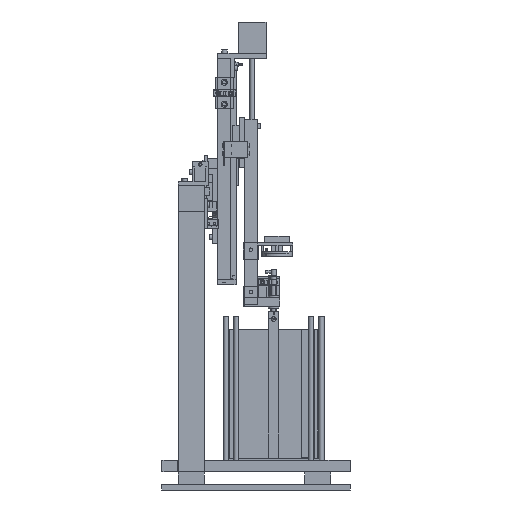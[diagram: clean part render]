
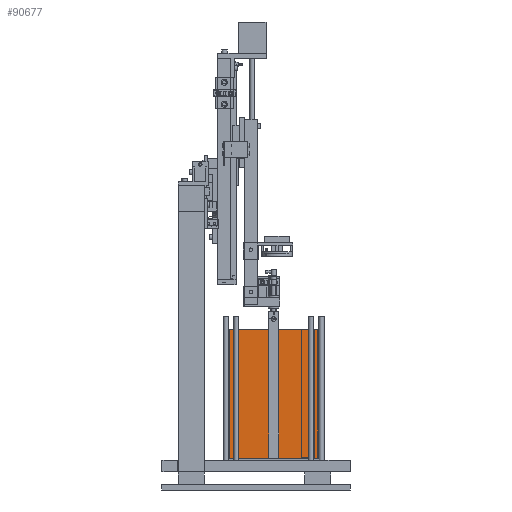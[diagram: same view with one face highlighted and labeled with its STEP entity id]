
A CAD part, left-side view. The second image highlights one B-rep face of the part: STEP entity #90677.
In plain terms, the highlighted planar face has unit normal (-1, 0, 0).
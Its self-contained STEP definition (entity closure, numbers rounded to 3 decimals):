
#90677 = ADVANCED_FACE('',(#90678),#90692,.F.);
#90678 = FACE_BOUND('',#90679,.F.);
#90679 = EDGE_LOOP('',(#90680,#90715,#90743,#90771));
#90680 = ORIENTED_EDGE('',*,*,#90681,.F.);
#90681 = EDGE_CURVE('',#90682,#90684,#90686,.T.);
#90682 = VERTEX_POINT('',#90683);
#90683 = CARTESIAN_POINT('',(1.85,-67.75,0.));
#90684 = VERTEX_POINT('',#90685);
#90685 = CARTESIAN_POINT('',(1.85,-67.75,198.));
#90686 = SURFACE_CURVE('',#90687,(#90691,#90703),.PCURVE_S1.);
#90687 = LINE('',#90688,#90689);
#90688 = CARTESIAN_POINT('',(1.85,-67.75,0.));
#90689 = VECTOR('',#90690,1.);
#90690 = DIRECTION('',(0.,0.,1.));
#90691 = PCURVE('',#90692,#90697);
#90692 = PLANE('',#90693);
#90693 = AXIS2_PLACEMENT_3D('',#90694,#90695,#90696);
#90694 = CARTESIAN_POINT('',(1.85,-67.75,0.));
#90695 = DIRECTION('',(1.,0.,0.));
#90696 = DIRECTION('',(0.,0.,1.));
#90697 = DEFINITIONAL_REPRESENTATION('',(#90698),#90702);
#90698 = LINE('',#90699,#90700);
#90699 = CARTESIAN_POINT('',(0.,0.));
#90700 = VECTOR('',#90701,1.);
#90701 = DIRECTION('',(1.,0.));
#90702 = ( GEOMETRIC_REPRESENTATION_CONTEXT(2) 
PARAMETRIC_REPRESENTATION_CONTEXT() REPRESENTATION_CONTEXT('2D SPACE',''
  ) );
#90703 = PCURVE('',#90704,#90709);
#90704 = PLANE('',#90705);
#90705 = AXIS2_PLACEMENT_3D('',#90706,#90707,#90708);
#90706 = CARTESIAN_POINT('',(1.85,-67.75,0.));
#90707 = DIRECTION('',(0.,1.,0.));
#90708 = DIRECTION('',(0.,0.,1.));
#90709 = DEFINITIONAL_REPRESENTATION('',(#90710),#90714);
#90710 = LINE('',#90711,#90712);
#90711 = CARTESIAN_POINT('',(0.,0.));
#90712 = VECTOR('',#90713,1.);
#90713 = DIRECTION('',(1.,0.));
#90714 = ( GEOMETRIC_REPRESENTATION_CONTEXT(2) 
PARAMETRIC_REPRESENTATION_CONTEXT() REPRESENTATION_CONTEXT('2D SPACE',''
  ) );
#90715 = ORIENTED_EDGE('',*,*,#90716,.T.);
#90716 = EDGE_CURVE('',#90682,#90717,#90719,.T.);
#90717 = VERTEX_POINT('',#90718);
#90718 = CARTESIAN_POINT('',(1.85,67.75,0.));
#90719 = SURFACE_CURVE('',#90720,(#90724,#90731),.PCURVE_S1.);
#90720 = LINE('',#90721,#90722);
#90721 = CARTESIAN_POINT('',(1.85,-67.75,0.));
#90722 = VECTOR('',#90723,1.);
#90723 = DIRECTION('',(0.,1.,0.));
#90724 = PCURVE('',#90692,#90725);
#90725 = DEFINITIONAL_REPRESENTATION('',(#90726),#90730);
#90726 = LINE('',#90727,#90728);
#90727 = CARTESIAN_POINT('',(0.,0.));
#90728 = VECTOR('',#90729,1.);
#90729 = DIRECTION('',(0.,-1.));
#90730 = ( GEOMETRIC_REPRESENTATION_CONTEXT(2) 
PARAMETRIC_REPRESENTATION_CONTEXT() REPRESENTATION_CONTEXT('2D SPACE',''
  ) );
#90731 = PCURVE('',#90732,#90737);
#90732 = PLANE('',#90733);
#90733 = AXIS2_PLACEMENT_3D('',#90734,#90735,#90736);
#90734 = CARTESIAN_POINT('',(1.85,-67.75,0.));
#90735 = DIRECTION('',(0.,0.,1.));
#90736 = DIRECTION('',(1.,0.,0.));
#90737 = DEFINITIONAL_REPRESENTATION('',(#90738),#90742);
#90738 = LINE('',#90739,#90740);
#90739 = CARTESIAN_POINT('',(0.,0.));
#90740 = VECTOR('',#90741,1.);
#90741 = DIRECTION('',(0.,1.));
#90742 = ( GEOMETRIC_REPRESENTATION_CONTEXT(2) 
PARAMETRIC_REPRESENTATION_CONTEXT() REPRESENTATION_CONTEXT('2D SPACE',''
  ) );
#90743 = ORIENTED_EDGE('',*,*,#90744,.T.);
#90744 = EDGE_CURVE('',#90717,#90745,#90747,.T.);
#90745 = VERTEX_POINT('',#90746);
#90746 = CARTESIAN_POINT('',(1.85,67.75,198.));
#90747 = SURFACE_CURVE('',#90748,(#90752,#90759),.PCURVE_S1.);
#90748 = LINE('',#90749,#90750);
#90749 = CARTESIAN_POINT('',(1.85,67.75,0.));
#90750 = VECTOR('',#90751,1.);
#90751 = DIRECTION('',(0.,0.,1.));
#90752 = PCURVE('',#90692,#90753);
#90753 = DEFINITIONAL_REPRESENTATION('',(#90754),#90758);
#90754 = LINE('',#90755,#90756);
#90755 = CARTESIAN_POINT('',(0.,-135.5));
#90756 = VECTOR('',#90757,1.);
#90757 = DIRECTION('',(1.,0.));
#90758 = ( GEOMETRIC_REPRESENTATION_CONTEXT(2) 
PARAMETRIC_REPRESENTATION_CONTEXT() REPRESENTATION_CONTEXT('2D SPACE',''
  ) );
#90759 = PCURVE('',#90760,#90765);
#90760 = PLANE('',#90761);
#90761 = AXIS2_PLACEMENT_3D('',#90762,#90763,#90764);
#90762 = CARTESIAN_POINT('',(1.85,67.75,0.));
#90763 = DIRECTION('',(0.,1.,0.));
#90764 = DIRECTION('',(0.,0.,1.));
#90765 = DEFINITIONAL_REPRESENTATION('',(#90766),#90770);
#90766 = LINE('',#90767,#90768);
#90767 = CARTESIAN_POINT('',(0.,0.));
#90768 = VECTOR('',#90769,1.);
#90769 = DIRECTION('',(1.,0.));
#90770 = ( GEOMETRIC_REPRESENTATION_CONTEXT(2) 
PARAMETRIC_REPRESENTATION_CONTEXT() REPRESENTATION_CONTEXT('2D SPACE',''
  ) );
#90771 = ORIENTED_EDGE('',*,*,#90772,.F.);
#90772 = EDGE_CURVE('',#90684,#90745,#90773,.T.);
#90773 = SURFACE_CURVE('',#90774,(#90778,#90785),.PCURVE_S1.);
#90774 = LINE('',#90775,#90776);
#90775 = CARTESIAN_POINT('',(1.85,-67.75,198.));
#90776 = VECTOR('',#90777,1.);
#90777 = DIRECTION('',(0.,1.,0.));
#90778 = PCURVE('',#90692,#90779);
#90779 = DEFINITIONAL_REPRESENTATION('',(#90780),#90784);
#90780 = LINE('',#90781,#90782);
#90781 = CARTESIAN_POINT('',(198.,0.));
#90782 = VECTOR('',#90783,1.);
#90783 = DIRECTION('',(0.,-1.));
#90784 = ( GEOMETRIC_REPRESENTATION_CONTEXT(2) 
PARAMETRIC_REPRESENTATION_CONTEXT() REPRESENTATION_CONTEXT('2D SPACE',''
  ) );
#90785 = PCURVE('',#90786,#90791);
#90786 = PLANE('',#90787);
#90787 = AXIS2_PLACEMENT_3D('',#90788,#90789,#90790);
#90788 = CARTESIAN_POINT('',(1.85,-67.75,198.));
#90789 = DIRECTION('',(0.,0.,1.));
#90790 = DIRECTION('',(1.,0.,0.));
#90791 = DEFINITIONAL_REPRESENTATION('',(#90792),#90796);
#90792 = LINE('',#90793,#90794);
#90793 = CARTESIAN_POINT('',(0.,0.));
#90794 = VECTOR('',#90795,1.);
#90795 = DIRECTION('',(0.,1.));
#90796 = ( GEOMETRIC_REPRESENTATION_CONTEXT(2) 
PARAMETRIC_REPRESENTATION_CONTEXT() REPRESENTATION_CONTEXT('2D SPACE',''
  ) );
